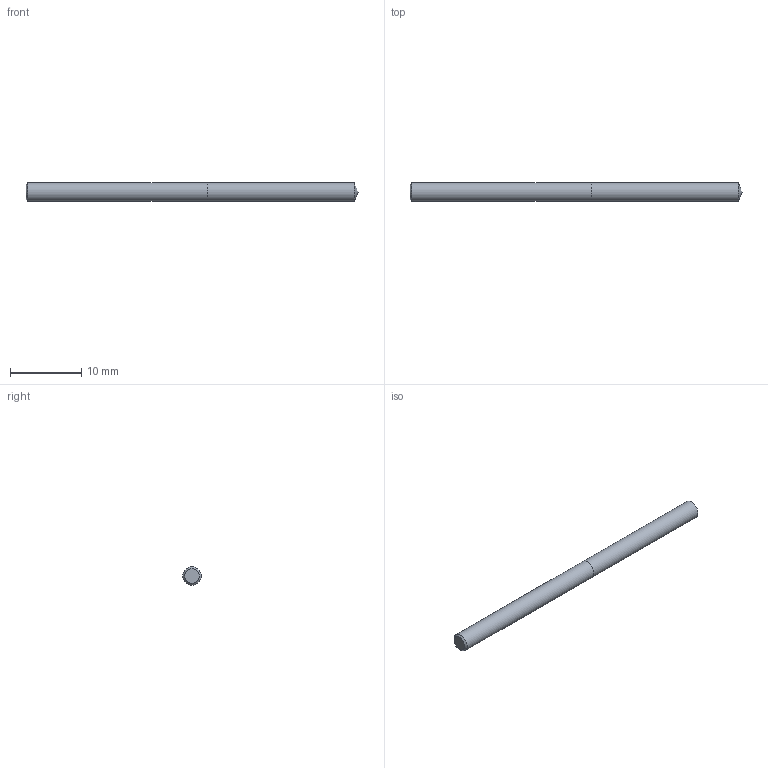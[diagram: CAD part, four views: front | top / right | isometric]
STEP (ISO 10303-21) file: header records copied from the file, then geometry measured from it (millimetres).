
FILE_DESCRIPTION (( 'STEP AP214' ), '1' );
FILE_NAME ('03-2380.STEP', '2022-06-03T06:59:27', ( 'USER' ), ( '' ), 'SwSTEP 2.0', 'SolidWorks 2018', '' );
FILE_SCHEMA (( 'AUTOMOTIVE_DESIGN' ));
Length unit declared in the file: inch
Products named in the file (1): 03-2380
Bounding box: 46.57 x 2.58 x 2.58 mm (x, y, z)
Volume: 241 mm3; surface area: 392.9 mm2
Topology: 2 solids, 2 shells, 7 faces, 11 edges, 7 vertices
Faces by surface type: plane 3, cylinder 2, cone 2
Full cylindrical faces by diameter (mm): 2.578 x2
Entity records: 214 total; most frequent: DIRECTION 26, CARTESIAN_POINT 18, AXIS2_PLACEMENT_3D 13, ORIENTED_EDGE 10, EDGE_LOOP 10, FACE_OUTER_BOUND 9, LENGTH_MEASURE_WITH_UNIT 7, ADVANCED_FACE 7
